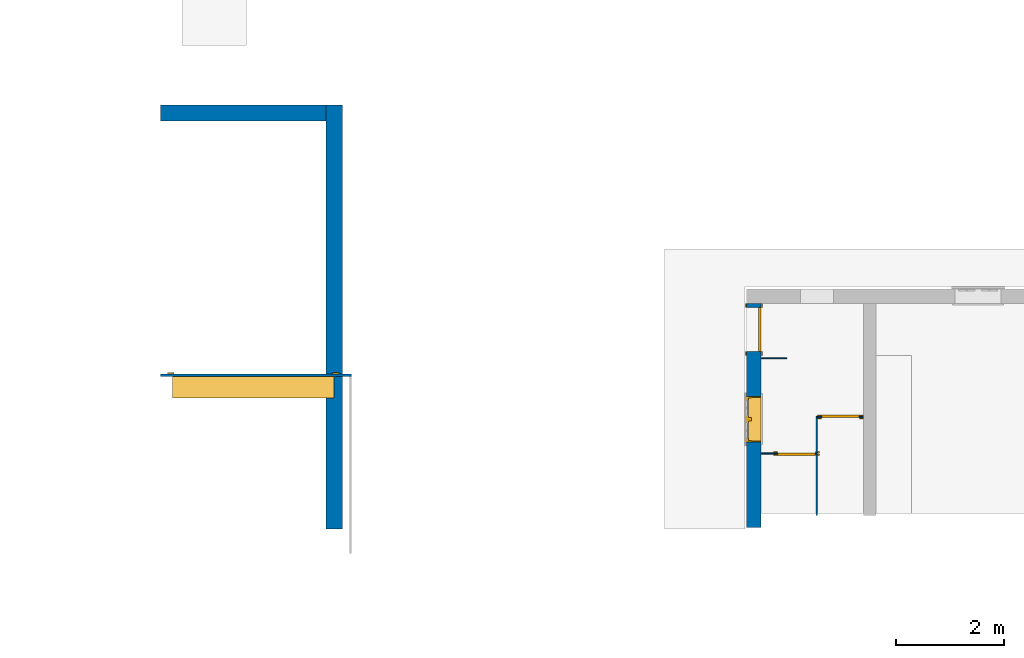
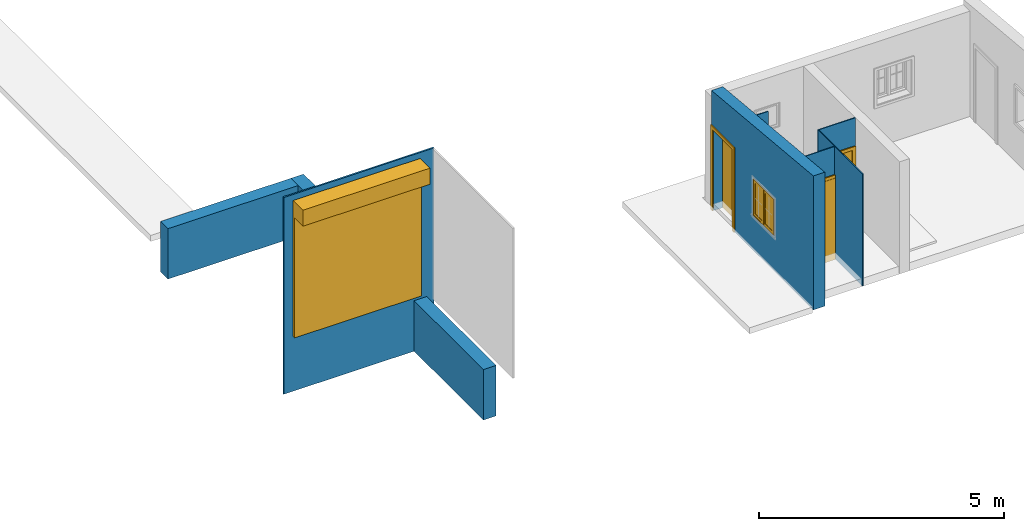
"""IFC2X3 building model written with IfcOpenShell, lengths in millimetres."""

from ifc_helpers import new_model, entity, si_unit, converted_unit, derived_unit, direction, frame, frame_2d, origin, origin_2d_with_axis, place, context, subcontext, project, spatial, polyline, rectangle, outline, extrude, clip, halfspace, faceted_brep, source, transform, mapped, material, material_list, layer, layer_set, layer_usage, type_object, type_shapes, element, fill, save


model = new_model("IFC2X3")

# Units and contexts
model_context = context("Model", 3, precision=0.01, world=origin(), true_north=direction((4.05803320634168e-15, -1.0)))
body_context = subcontext(model_context, "Body", "Model", "MODEL_VIEW")
ifc_project = project(units=[si_unit("LENGTHUNIT", "METRE", prefix="MILLI"), si_unit("AREAUNIT", "SQUARE_METRE"), si_unit("VOLUMEUNIT", "CUBIC_METRE"), converted_unit("PLANEANGLEUNIT", "DEGREE", entity("IfcRatioMeasure", 0.0174532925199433), si_unit("PLANEANGLEUNIT", "RADIAN"), dimensions=[0, 0, 0, 0, 0, 0, 0]), si_unit("MASSUNIT", "GRAM", prefix="KILO"), derived_unit("MASSDENSITYUNIT", [(si_unit("MASSUNIT", "GRAM", prefix="KILO"), 1), (si_unit("LENGTHUNIT", "METRE"), -3)]), si_unit("TIMEUNIT", "SECOND"), si_unit("FREQUENCYUNIT", "HERTZ"), si_unit("THERMODYNAMICTEMPERATUREUNIT", "DEGREE_CELSIUS"), derived_unit("THERMALTRANSMITTANCEUNIT", [(si_unit("MASSUNIT", "GRAM", prefix="KILO"), 1), (si_unit("THERMODYNAMICTEMPERATUREUNIT", "KELVIN"), -1), (si_unit("TIMEUNIT", "SECOND"), -3)]), derived_unit("VOLUMETRICFLOWRATEUNIT", [(si_unit("LENGTHUNIT", "METRE"), 3), (si_unit("TIMEUNIT", "SECOND"), -1)]), si_unit("ELECTRICCURRENTUNIT", "AMPERE"), si_unit("ELECTRICVOLTAGEUNIT", "VOLT"), si_unit("POWERUNIT", "WATT"), si_unit("FORCEUNIT", "NEWTON", prefix="KILO"), si_unit("ILLUMINANCEUNIT", "LUX"), si_unit("LUMINOUSFLUXUNIT", "LUMEN"), si_unit("LUMINOUSINTENSITYUNIT", "CANDELA"), derived_unit("USERDEFINED", [(si_unit("MASSUNIT", "GRAM", prefix="KILO"), -1), (si_unit("LENGTHUNIT", "METRE"), -2), (si_unit("TIMEUNIT", "SECOND"), 3), (si_unit("LUMINOUSFLUXUNIT", "LUMEN"), 1)]), derived_unit("LINEARVELOCITYUNIT", [(si_unit("LENGTHUNIT", "METRE"), 1), (si_unit("TIMEUNIT", "SECOND"), -1)]), si_unit("PRESSUREUNIT", "PASCAL"), derived_unit("USERDEFINED", [(si_unit("LENGTHUNIT", "METRE"), -2), (si_unit("MASSUNIT", "GRAM", prefix="KILO"), 1), (si_unit("TIMEUNIT", "SECOND"), -2)])], contexts=[model_context])

# Site, building, storey
site_placement = place(None, frame((927466.849349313, 583801.882853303, 0.0), z_axis=(0.0, 0.0, 1.0), x_axis=(-1.0, 0.0, 0.0)))
site = spatial("IfcSite", under=ifc_project, at=site_placement, Name="Surface", CompositionType="ELEMENT")
building_placement = place(site_placement, origin())
building = spatial("IfcBuilding", under=site, at=building_placement, CompositionType="ELEMENT")
storey_1_placement = place(building_placement, frame((0.0, 0.0, 42810.0)))
storey_1 = spatial("IfcBuildingStorey", under=building, at=storey_1_placement, Name="Hardstand", CompositionType="ELEMENT", Elevation=42810.0)

# Wall, openings, window, door
ifc_material_1 = material(Name="Brick, Common")
ifc_layer_1 = layer(ifc_material_1, 110.0)
ifc_material_2 = material(Name="Air")
ifc_layer_2 = layer(ifc_material_2, 50.0)
ifc_layer_3 = layer(ifc_material_1, 110.0)
ifc_layer_set_1 = layer_set([ifc_layer_1, ifc_layer_2, ifc_layer_3], Name="Basic Wall:wall Brick 270")
ifc_layer_usage_1 = layer_usage(ifc_layer_set_1, "AXIS2", "NEGATIVE", 135.0)
wall_type_1 = type_object("IfcWallType", Name="Basic Wall:wall Brick 270", PredefinedType="STANDARD", material=ifc_layer_set_1)
wall_1_placement = place(storey_1_placement, frame((-145915.545849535, 7259.01582707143, 0.0), z_axis=(0.0, 0.0, 1.0), x_axis=(0.0, 1.0, 0.0)))
wall_1 = element("IfcWallStandardCase", 1, at=wall_1_placement, inside=storey_1, type_object=wall_type_1, material=ifc_layer_usage_1, Name="Basic Wall:wall Brick 270", ObjectType="Basic Wall:wall Brick 270", context=body_context, shape_type="Clipping", body=[
    clip(extrude(rectangle(XDim=4165.00000000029, YDim=270.000000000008, at=frame_2d((2082.50000000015, -7.24753590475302e-12), x_axis=(-1.0, 0.0))), origin(), (0.0, 0.0, 1.0), 3344.98005450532), halfspace(frame((0.0, -135.0, 2954.46860363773), z_axis=(-0.0933508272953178, 0.0, 0.995633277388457), x_axis=(0.0, 1.0, 0.0)), False)),
])
opening_1_placement = place(wall_1_placement, frame((77.0, -135.0, 0.0)))
opening_1 = element("IfcOpeningElement", 2, at=opening_1_placement, cuts=wall_1, Name="M_Single-Flush:0813 x 2030mm:1", ObjectType="Opening", context=body_context, shape_type="SweptSolid", body=[
    extrude(rectangle(XDim=813.000000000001, YDim=2030.0, at=frame_2d((1015.0, 406.500000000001), x_axis=(0.0, -1.0))), frame((0.0, 0.0, 0.0), z_axis=(0.0, 1.0, 0.0), x_axis=(0.0, 0.0, 1.0)), (0.0, 0.0, 1.0), 270.0),
])
opening_2_placement = place(wall_1_placement, frame((2575.56579964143, 135.0, 900.0)))
opening_2 = element("IfcOpeningElement", 3, at=opening_2_placement, cuts=wall_1, Name="M_Window-Casement-Double:850 x 900mm:1", ObjectType="Opening", context=body_context, shape_type="SweptSolid", body=[
    extrude(rectangle(XDim=899.999999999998, YDim=850.0, at=frame_2d((450.000000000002, 425.0), x_axis=(-1.0, 0.0))), frame((0.0, 0.0, 0.0), z_axis=(0.0, -1.0, 0.0), x_axis=(0.0, 0.0, 1.0)), (0.0, 0.0, 1.0), 270.0),
])
ifc_material_3 = material(Name="Wood - Stained")
ifc_material_4 = material(Name="Glass")
ifc_material_list_1 = material_list([ifc_material_3, ifc_material_4])
ifc_material_list_2 = material_list([ifc_material_3, ifc_material_4])
window_style = type_object("IfcWindowStyle", Name="850 x 900mm", ConstructionType="NOTDEFINED", OperationType="NOTDEFINED", ParameterTakesPrecedence=False, Sizeable=False, material=ifc_material_list_2)
shared_shape_1 = source(origin(), body_context, "Body", "Brep", [
    faceted_brep([(434.524999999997, 289.049999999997, 887.300000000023), (415.474999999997, 289.049999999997, 887.300000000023), (415.474999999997, 238.250000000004, 887.300000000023), (434.524999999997, 238.249999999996, 887.300000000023), (434.524999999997, 289.049999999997, 12.6999999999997), (434.524999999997, 238.250000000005, 12.6999999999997), (415.474999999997, 238.249999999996, 12.6999999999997), (415.474999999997, 289.049999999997, 12.6999999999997), (415.474999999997, 238.249999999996, 31.7499999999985), (415.474999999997, 238.250000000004, 868.250000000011), (394.8375, 238.250000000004, 31.7499999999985), (394.8375, 238.250000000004, 868.250000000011), (394.8375, 174.75, 31.7499999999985), (394.8375, 174.75, 868.250000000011), (455.1625, 174.75, 31.7499999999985), (455.1625, 174.75, 868.250000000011), (455.1625, 238.250000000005, 31.7499999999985), (455.1625, 238.250000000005, 868.250000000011), (434.524999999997, 238.250000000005, 31.7499999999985), (434.524999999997, 238.250000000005, 868.250000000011)], [[[0, 1, 2, 3]], [[4, 5, 6, 7]], [[1, 0, 4, 7]], [[2, 1, 7, 6, 8, 9]], [[9, 8, 10, 11]], [[11, 10, 12, 13]], [[13, 12, 14, 15]], [[15, 14, 16, 17]], [[17, 16, 18, 19]], [[0, 3, 19, 18, 5, 4]], [[18, 8, 6, 5]], [[8, 18, 16, 14, 12, 10]], [[19, 9, 11, 13, 15, 17]], [[9, 19, 3, 2]]]),
    faceted_brep([(358.324999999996, 270.0, 830.150000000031), (69.8499999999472, 270.0, 830.150000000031), (69.8499999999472, 263.650000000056, 830.150000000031), (358.324999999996, 263.650000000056, 830.150000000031), (358.324999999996, 270.0, 69.8499999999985), (69.8499999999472, 270.0, 69.8499999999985), (69.8499999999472, 263.650000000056, 69.8499999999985), (358.324999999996, 263.650000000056, 69.8499999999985)], [[[0, 1, 2, 3]], [[1, 0, 4, 5]], [[2, 1, 5, 6]], [[3, 2, 6, 7]], [[0, 3, 7, 4]], [[4, 7, 6, 5]]]),
    faceted_brep([(69.8499999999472, 250.949999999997, 69.8499999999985), (69.8499999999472, 257.300000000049, 69.8499999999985), (358.324999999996, 257.300000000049, 69.8499999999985), (358.324999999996, 250.949999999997, 69.8499999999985), (358.324999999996, 250.949999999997, 830.150000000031), (69.8499999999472, 250.949999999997, 830.150000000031), (358.324999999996, 257.300000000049, 830.150000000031), (69.8499999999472, 257.300000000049, 830.150000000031)], [[[0, 1, 2, 3]], [[4, 5, 0, 3]], [[6, 4, 3, 2]], [[7, 6, 2, 1]], [[5, 7, 1, 0]], [[5, 4, 6, 7]]]),
    faceted_brep([(780.149999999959, 270.0, 830.150000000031), (491.674999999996, 270.0, 830.150000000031), (491.674999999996, 263.650000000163, 830.150000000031), (780.149999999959, 263.650000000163, 830.150000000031), (780.149999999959, 270.0, 69.8499999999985), (491.674999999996, 270.0, 69.8499999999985), (491.674999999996, 263.650000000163, 69.8499999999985), (780.149999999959, 263.650000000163, 69.8499999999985)], [[[0, 1, 2, 3]], [[1, 0, 4, 5]], [[2, 1, 5, 6]], [[3, 2, 6, 7]], [[0, 3, 7, 4]], [[4, 7, 6, 5]]]),
    faceted_brep([(491.674999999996, 250.949999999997, 69.8499999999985), (491.674999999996, 257.300000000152, 69.8499999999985), (780.149999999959, 257.300000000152, 69.8499999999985), (780.149999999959, 250.949999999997, 69.8499999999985), (780.149999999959, 250.949999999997, 830.150000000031), (491.674999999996, 250.949999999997, 830.150000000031), (780.149999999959, 257.300000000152, 830.150000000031), (491.674999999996, 257.300000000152, 830.150000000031)], [[[0, 1, 2, 3]], [[4, 5, 0, 3]], [[6, 4, 3, 2]], [[7, 6, 2, 1]], [[5, 7, 1, 0]], [[5, 4, 6, 7]]]),
    faceted_brep([(415.474999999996, 238.249999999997, 887.300000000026), (415.474999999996, 282.699999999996, 887.300000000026), (12.6999999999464, 282.699999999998, 887.300000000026), (12.6999999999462, 238.249999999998, 887.300000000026), (358.324999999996, 282.699999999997, 830.150000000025), (358.324999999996, 238.249999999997, 830.150000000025), (69.8499999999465, 238.249999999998, 830.150000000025), (69.8499999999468, 282.699999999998, 830.150000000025), (12.6999999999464, 282.699999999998, 12.7000000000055), (12.6999999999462, 238.249999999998, 12.7000000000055), (69.8499999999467, 238.249999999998, 69.8500000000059), (69.8499999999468, 282.699999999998, 69.8500000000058), (415.474999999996, 282.699999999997, 12.7000000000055), (415.474999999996, 238.249999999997, 12.7000000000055), (358.324999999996, 238.249999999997, 69.8500000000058), (358.324999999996, 282.699999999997, 69.8500000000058)], [[[0, 1, 2, 3]], [[4, 5, 6, 7]], [[3, 2, 8, 9]], [[7, 6, 10, 11]], [[9, 8, 12, 13]], [[11, 10, 14, 15]], [[7, 11, 15, 4], [1, 12, 8, 2]], [[13, 12, 1, 0]], [[3, 9, 13, 0], [5, 14, 10, 6]], [[15, 14, 5, 4]]], outer=[[True], [True], [True], [True], [True], [True], [False, True], [True], [True, False], [True]]),
    faceted_brep([(780.149999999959, 238.249999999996, 69.8500000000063), (780.149999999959, 282.699999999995, 69.8500000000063), (491.674999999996, 282.699999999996, 69.8500000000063), (491.674999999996, 238.249999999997, 69.8500000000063), (837.299999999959, 282.699999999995, 12.7000000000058), (837.299999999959, 238.249999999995, 12.7000000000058), (434.524999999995, 238.249999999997, 12.7000000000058), (434.524999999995, 282.699999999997, 12.7000000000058), (491.674999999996, 282.699999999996, 830.150000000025), (491.674999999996, 238.249999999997, 830.150000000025), (434.524999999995, 238.249999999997, 887.300000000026), (434.524999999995, 282.699999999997, 887.300000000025), (780.149999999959, 282.699999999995, 830.150000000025), (780.149999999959, 238.249999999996, 830.150000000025), (837.299999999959, 238.249999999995, 887.300000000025), (837.299999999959, 282.699999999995, 887.300000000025)], [[[0, 1, 2, 3]], [[4, 5, 6, 7]], [[3, 2, 8, 9]], [[7, 6, 10, 11]], [[9, 8, 12, 13]], [[11, 10, 14, 15]], [[13, 12, 1, 0]], [[3, 9, 13, 0], [5, 14, 10, 6]], [[15, 14, 5, 4]], [[7, 11, 15, 4], [1, 12, 8, 2]]], outer=[[True], [True], [True], [True], [True], [True], [True], [False, True], [True], [True, False]]),
    faceted_brep([(0.0, 0.0, 900.0), (0.0, 0.0, 0.0), (850.0, 0.0, 0.0), (850.0, 0.0, 900.0), (830.950000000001, 0.0, 880.949999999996), (830.950000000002, 0.0, 19.0499999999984), (19.0499999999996, 0.0, 19.0499999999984), (19.0499999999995, 0.0, 880.949999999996), (0.0, 174.75, 900.0), (850.0, 174.75, 900.0), (850.0, 174.75, 0.0), (0.0, 174.75, 0.0), (830.950000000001, 174.75, 880.949999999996), (19.0499999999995, 174.75, 880.949999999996), (19.0499999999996, 174.75, 19.0499999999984), (830.950000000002, 174.75, 19.0499999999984)], [[[0, 1, 2, 3], [4, 5, 6, 7]], [[8, 9, 10, 11], [12, 13, 14, 15]], [[1, 0, 8, 11]], [[2, 1, 11, 10]], [[3, 2, 10, 9]], [[0, 3, 9, 8]], [[5, 4, 12, 15]], [[6, 5, 15, 14]], [[7, 6, 14, 13]], [[4, 7, 13, 12]]]),
    faceted_brep([(818.250000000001, 238.249999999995, 868.249999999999), (818.250000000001, 174.749999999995, 868.249999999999), (31.7499999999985, 174.749999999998, 868.249999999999), (31.7499999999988, 238.249999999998, 868.249999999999), (837.300000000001, 289.049999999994, 887.299999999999), (837.300000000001, 238.249999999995, 887.299999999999), (12.699999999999, 238.249999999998, 887.299999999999), (12.6999999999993, 289.049999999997, 887.299999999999), (850.0, 174.749999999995, 900.0), (850.0, 289.049999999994, 900.0), (0.0, 289.049999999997, 900.0), (0.0, 174.749999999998, 900.0), (31.7499999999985, 174.749999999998, 31.7499999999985), (31.7499999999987, 238.249999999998, 31.7499999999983), (12.6999999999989, 238.249999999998, 12.6999999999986), (12.6999999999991, 289.049999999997, 12.6999999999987), (0.0, 289.049999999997, 0.0), (0.0, 174.749999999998, 0.0), (818.250000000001, 174.749999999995, 31.7499999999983), (818.250000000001, 238.249999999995, 31.7499999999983), (837.300000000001, 238.249999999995, 12.6999999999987), (837.300000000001, 289.049999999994, 12.6999999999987), (850.0, 289.049999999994, 0.0), (850.0, 174.749999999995, 0.0)], [[[0, 1, 2, 3]], [[4, 5, 6, 7]], [[8, 9, 10, 11]], [[3, 2, 12, 13]], [[7, 6, 14, 15]], [[11, 10, 16, 17]], [[13, 12, 18, 19]], [[15, 14, 20, 21]], [[17, 16, 22, 23]], [[11, 17, 23, 8], [1, 18, 12, 2]], [[19, 18, 1, 0]], [[3, 13, 19, 0], [5, 20, 14, 6]], [[21, 20, 5, 4]], [[23, 22, 9, 8]], [[7, 15, 21, 4], [9, 22, 16, 10]]], outer=[[True], [True], [True], [True], [True], [True], [True], [True], [True], [True, False], [True], [False, True], [True], [True], [False, True]]),
])
type_shapes(window_style, [shared_shape_1])
window_placement = place(opening_2_placement, frame((0.0, 0.0, 0.0), z_axis=(0.0, 0.0, 1.0), x_axis=(-1.0, 0.0, 0.0)))
window = element("IfcWindow", 4, at=window_placement, inside=storey_1, type_object=window_style, material=ifc_material_list_1, Name="M_Window-Casement-Double:850 x 900mm", ObjectType="850 x 900mm", OverallHeight=900.000000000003, OverallWidth=850.000000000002, context=body_context, shape_type="MappedRepresentation", body=[
    mapped(shared_shape_1, transform((0.0, 0.0, 0.0), scale=1.0)),
])
fill(opening_2, window)
ifc_material_5 = material(Name="Door - Frame")
ifc_material_6 = material(Name="Door - Panel")
ifc_material_list_3 = material_list([ifc_material_5, ifc_material_6])
ifc_material_list_4 = material_list([ifc_material_5, ifc_material_6])
door_style_1 = type_object("IfcDoorStyle", Name="0813 x 2030mm", ConstructionType="NOTDEFINED", OperationType="SINGLE_SWING_LEFT", ParameterTakesPrecedence=False, Sizeable=False, material=ifc_material_list_4)
shared_shape_2 = source(origin(), body_context, "Body", "SweptSolid", [
    extrude(outline(polyline([(-482.5, -1072.0), (482.5, -1072.0), (482.5, 1034.0), (406.5, 1034.0), (406.5, -996.0), (-406.5, -996.0), (-406.5, 1034.0), (-482.5, 1034.0), (-482.5, -1072.0)])), frame((406.5, 295.0, 1034.0), z_axis=(0.0, -1.0, 0.0), x_axis=(-1.0, 0.0, 0.0)), (0.0, 0.0, 1.0), 24.9999999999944),
    extrude(outline(polyline([(-1072.0, -482.499999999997), (1034.0, -482.499999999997), (1034.0, -406.500000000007), (-996.0, -406.500000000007), (-996.0, 406.500000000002), (1034.0, 406.500000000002), (1034.0, 482.500000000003), (-1072.0, 482.500000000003), (-1072.0, -482.499999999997)])), frame((406.499999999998, 0.0, 1034.0), z_axis=(0.0, -1.0, 0.0), x_axis=(0.0, 0.0, -1.0)), (0.0, 0.0, 1.0), 25.0000000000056),
    extrude(rectangle(XDim=813.0, YDim=51.0, at=frame_2d((0.0, 8.88178419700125e-15), x_axis=(1.0, 0.0))), frame((406.5, 244.499999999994, 0.0)), (0.0, 0.0, 1.0), 2030.0),
])
type_shapes(door_style_1, [shared_shape_2])
door_1_placement = place(opening_1_placement, origin())
door_1 = element("IfcDoor", 5, at=door_1_placement, inside=storey_1, type_object=door_style_1, material=ifc_material_list_3, Name="M_Single-Flush:0813 x 2030mm", ObjectType="0813 x 2030mm", OverallHeight=2030.0, OverallWidth=813.000000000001, context=body_context, shape_type="MappedRepresentation", body=[
    mapped(shared_shape_2, transform((0.0, 0.0, 0.0), scale=1.0)),
])
fill(opening_1, door_1)

# Wall, opening
ifc_material_7 = material(Name="Cladding(2)")
ifc_layer_4 = layer(ifc_material_7, 38.0)
ifc_layer_set_2 = layer_set([ifc_layer_4], Name="Basic Wall:Cladding 3")
ifc_layer_usage_2 = layer_usage(ifc_layer_set_2, "AXIS2", "POSITIVE", -19.0)
wall_type_2 = type_object("IfcWallType", Name="Basic Wall:Cladding 3", PredefinedType="NOTDEFINED")
wall_2_placement = place(storey_1_placement, frame((-134900.59177989, 8594.22253534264, 0.0), z_axis=(0.0, 0.0, 1.0), x_axis=(-1.0, 0.0, 0.0)))
wall_2 = element("IfcWallStandardCase", 6, at=wall_2_placement, inside=storey_1, type_object=wall_type_2, material=ifc_layer_usage_2, Name="Basic Wall:Cladding 3", ObjectType="Basic Wall:Cladding 3", context=body_context, shape_type="SweptSolid", body=[
    extrude(rectangle(XDim=3545.18807853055, YDim=38.0, at=frame_2d((1772.59403926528, -3.00204305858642e-13), x_axis=(-1.0, 0.0))), origin(), (0.0, 0.0, 1.0), 4909.99999999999),
])
opening_3_placement = place(wall_2_placement, frame((222.345496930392, -19.0, 1360.0)))
opening_3 = element("IfcOpeningElement", 7, at=opening_3_placement, cuts=wall_2, Name="Rollershutter:3000(w) x 3000(h):1", ObjectType="Opening", context=body_context, shape_type="SweptSolid", body=[
    extrude(rectangle(XDim=3000.0, YDim=3000.0, at=frame_2d((1500.0, 1500.0), x_axis=(1.0, 0.0))), frame((0.0, 0.0, 0.0), z_axis=(0.0, 1.0, 0.0), x_axis=(0.0, 0.0, 1.0)), (0.0, 0.0, 1.0), 38.0),
])

# Storey
storey_2_placement = place(building_placement, frame((0.0, 0.0, 44170.0)))
storey_2 = spatial("IfcBuildingStorey", under=building, at=storey_2_placement, Name="Ground FFL", CompositionType="ELEMENT", Elevation=44170.0)

# Door
ifc_material_8 = material(Name="Metal - Paint Finish - Ivory, Matte")
ifc_material_9 = material(Name="Metal - Galvanised")
ifc_material_list_5 = material_list([ifc_material_8, ifc_material_9])
ifc_material_list_6 = material_list([ifc_material_8, ifc_material_9])
door_style_2 = type_object("IfcDoorStyle", Name="3000(w) x 3000(h)", ConstructionType="NOTDEFINED", OperationType="NOTDEFINED", ParameterTakesPrecedence=False, Sizeable=False, material=ifc_material_list_6)
shared_shape_3 = source(origin(), body_context, "Body", "SweptSolid", [
    extrude(outline(polyline([(-29.9333333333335, -73.3333333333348), (0.0666666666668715, -73.3333333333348), (0.0666666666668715, 21.6666666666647), (29.8666666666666, 21.6666666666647), (29.8666666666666, 51.6666666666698), (-29.9333333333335, 51.6666666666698), (-29.9333333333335, -73.3333333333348)])), frame((-21.6666666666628, 38.0666666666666, 0.0), z_axis=(0.0, 0.0, 1.0), x_axis=(0.0, -1.0, 0.0)), (0.0, 0.0, 1.0), 3000.0),
    extrude(rectangle(XDim=3000.0, YDim=51.0, at=origin_2d_with_axis()), frame((1500.0, -25.5, 0.0), z_axis=(0.0, 0.0, 1.0), x_axis=(-1.0, 0.0, 0.0)), (0.0, 0.0, 1.0), 3000.0),
    extrude(outline(polyline([(-73.3333333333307, -29.9333333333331), (51.666666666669, -29.9333333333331), (51.666666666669, 29.8666666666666), (21.6666666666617, 29.8666666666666), (21.6666666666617, 0.0666666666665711), (-73.3333333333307, 0.0666666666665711), (-73.3333333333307, -29.9333333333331)])), frame((3021.66666666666, 38.0666666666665, 0.0), z_axis=(0.0, 0.0, 1.0), x_axis=(-1.0, 0.0, 0.0)), (0.0, 0.0, 1.0), 3000.0),
    extrude(rectangle(XDim=3000.0, YDim=400.0, at=frame_2d((3.41060513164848e-13, -4.2632564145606e-14), x_axis=(1.0, 0.0))), frame((1500.0, -200.0, 3000.0)), (0.0, 0.0, 1.0), 400.0),
])
type_shapes(door_style_2, [shared_shape_3])
door_2_placement = place(opening_3_placement, origin())
door_2 = element("IfcDoor", 8, at=door_2_placement, inside=storey_2, type_object=door_style_2, material=ifc_material_list_5, Name="Rollershutter:3000(w) x 3000(h)", ObjectType="3000(w) x 3000(h)", OverallHeight=3000.0, OverallWidth=2999.99999999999, context=body_context, shape_type="MappedRepresentation", body=[
    mapped(shared_shape_3, transform((0.0, 0.0, 0.0), scale=1.0)),
])

fill(opening_3, door_2)

# Walls
ifc_material_10 = material(Name="conc bund")
ifc_layer_5 = layer(ifc_material_10, 300.0)
ifc_layer_set_3 = layer_set([ifc_layer_5], Name="Basic Wall:300 bund wall")
ifc_layer_usage_3 = layer_usage(ifc_layer_set_3, "AXIS2", "POSITIVE", -150.0)
wall_type_3 = type_object("IfcWallType", Name="Basic Wall:300 bund wall", PredefinedType="STANDARD", material=ifc_layer_set_3)
wall_3_placement = place(storey_1_placement, frame((-138125.93727682, 11448.2777512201, 0.0), z_axis=(0.0, 0.0, 1.0), x_axis=(0.0, -1.0, 0.0)))
element("IfcWallStandardCase", 9, at=wall_3_placement, inside=storey_1, type_object=wall_type_3, material=ifc_layer_usage_3, Name="Basic Wall:300 bund wall", ObjectType="Basic Wall:300 bund wall", context=body_context, shape_type="SweptSolid", body=[
    extrude(rectangle(XDim=7875.0552158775, YDim=300.000000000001, at=frame_2d((3937.52760793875, 0.0), x_axis=(-1.0, 0.0))), origin(), (0.0, 0.0, 1.0), 1259.99999999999),
])
ifc_layer_usage_4 = layer_usage(ifc_layer_set_3, "AXIS2", "POSITIVE", -150.0)
wall_4_placement = place(storey_1_placement, frame((-137975.93727682, 3723.22253534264, 0.0)))
element("IfcWallStandardCase", 10, at=wall_4_placement, inside=storey_1, type_object=wall_type_3, material=ifc_layer_usage_4, Name="Basic Wall:300 bund wall", ObjectType="Basic Wall:300 bund wall", context=body_context, shape_type="SweptSolid", body=[
    extrude(rectangle(XDim=3075.34549693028, YDim=300.0, at=frame_2d((1537.67274846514, 7.105427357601e-14), x_axis=(-1.0, 0.0))), origin(), (0.0, 0.0, 1.0), 1259.99999999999),
])

# Wall, opening, door
ifc_material_11 = material(Name="Partition")
ifc_layer_6 = layer(ifc_material_11, 22.0)
ifc_layer_set_4 = layer_set([ifc_layer_6], Name="Basic Wall:22 Partition")
ifc_layer_usage_5 = layer_usage(ifc_layer_set_4, "AXIS2", "POSITIVE", -11.0)
wall_type_4 = type_object("IfcWallType", Name="Basic Wall:22 Partition", PredefinedType="STANDARD", material=ifc_layer_set_4)
wall_5_placement = place(storey_1_placement, frame((-147950.545849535, 9370.01582707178, 0.0)))
wall_5 = element("IfcWallStandardCase", 11, at=wall_5_placement, inside=storey_1, type_object=wall_type_4, material=ifc_layer_usage_5, Name="Basic Wall:22 Partition", ObjectType="Basic Wall:22 Partition", context=body_context, shape_type="SweptSolid", body=[
    extrude(rectangle(XDim=876.999999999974, YDim=21.9999999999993, at=frame_2d((438.499999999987, -6.21724893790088e-15), x_axis=(-1.0, 0.0))), origin(), (0.0, 0.0, 1.0), 2799.99999999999),
])
opening_4_placement = place(wall_5_placement, frame((77.0, -11.0, 0.0)))
opening_4 = element("IfcOpeningElement", 12, at=opening_4_placement, cuts=wall_5, Name="M_Single-Flush:700 x 2030mm:1", ObjectType="Opening", context=body_context, shape_type="SweptSolid", body=[
    extrude(rectangle(XDim=700.0, YDim=2030.0, at=frame_2d((1015.0, 350.000000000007), x_axis=(0.0, 1.0))), frame((0.0, 0.0, 0.0), z_axis=(0.0, 1.0, 0.0), x_axis=(0.0, 0.0, 1.0)), (0.0, 0.0, 1.0), 22.0),
])
ifc_material_list_7 = material_list([ifc_material_5, ifc_material_6])
ifc_material_list_8 = material_list([ifc_material_5, ifc_material_6])
door_style_3 = type_object("IfcDoorStyle", Name="700 x 2030mm", ConstructionType="NOTDEFINED", OperationType="SINGLE_SWING_RIGHT", ParameterTakesPrecedence=False, Sizeable=False, material=ifc_material_list_8)
shared_shape_4 = source(origin(), body_context, "Body", "SweptSolid", [
    extrude(outline(polyline([(-426.0, -1072.0), (426.0, -1072.0), (426.0, 1034.0), (350.0, 1034.0), (350.0, -996.0), (-350.0, -996.0), (-350.0, 1034.0), (-426.0, 1034.0), (-426.0, -1072.0)])), frame((350.0, 22.0, 1034.0), z_axis=(0.0, 1.0, 0.0), x_axis=(1.0, 0.0, 0.0)), (0.0, 0.0, 1.0), 24.9999999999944),
    extrude(outline(polyline([(-1072.0, -426.0), (1034.0, -426.0), (1034.0, -350.0), (-996.0, -350.0), (-996.0, 350.0), (1034.0, 350.0), (1034.0, 426.0), (-1072.0, 426.0), (-1072.0, -426.0)])), frame((350.0, -25.0, 1034.0), z_axis=(0.0, 1.0, 0.0), x_axis=(0.0, 0.0, -1.0)), (0.0, 0.0, 1.0), 25.0000000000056),
    extrude(rectangle(XDim=51.0, YDim=700.0, at=origin_2d_with_axis()), frame((350.0, -3.50000000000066, 0.0), z_axis=(0.0, 0.0, 1.0), x_axis=(0.0, 1.0, 0.0)), (0.0, 0.0, 1.0), 2030.0),
])
type_shapes(door_style_3, [shared_shape_4])
door_3_placement = place(opening_4_placement, origin())
door_3 = element("IfcDoor", 13, at=door_3_placement, inside=storey_1, type_object=door_style_3, material=ifc_material_list_7, Name="M_Single-Flush:700 x 2030mm", ObjectType="700 x 2030mm", OverallHeight=2030.0, OverallWidth=700.000000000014, context=body_context, shape_type="MappedRepresentation", body=[
    mapped(shared_shape_4, transform((0.0, 0.0, 0.0), scale=1.0)),
])
fill(opening_4, door_3)

# Wall
ifc_layer_usage_6 = layer_usage(ifc_layer_set_4, "AXIS2", "POSITIVE", -11.0)
wall_6_placement = place(storey_1_placement, frame((-147084.545849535, 11194.0158270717, 0.0), z_axis=(0.0, 0.0, 1.0), x_axis=(0.0, -1.0, 0.0)))
element("IfcWallStandardCase", 14, at=wall_6_placement, inside=storey_1, type_object=wall_type_4, material=ifc_layer_usage_6, Name="Basic Wall:22 Partition", ObjectType="Basic Wall:22 Partition", context=body_context, shape_type="SweptSolid", body=[
    extrude(rectangle(XDim=1812.99999999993, YDim=21.999999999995, at=frame_2d((906.499999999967, 4.41957581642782e-12), x_axis=(-1.0, 0.0))), origin(), (0.0, 0.0, 1.0), 2799.99999999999),
])

# Wall, opening, door
ifc_layer_usage_7 = layer_usage(ifc_layer_set_4, "AXIS2", "POSITIVE", -11.0)
wall_7_placement = place(storey_1_placement, frame((-147073.545849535, 10048.0158270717, 0.0)))
wall_7 = element("IfcWallStandardCase", 15, at=wall_7_placement, inside=storey_1, type_object=wall_type_4, material=ifc_layer_usage_7, Name="Basic Wall:22 Partition", ObjectType="Basic Wall:22 Partition", context=body_context, shape_type="SweptSolid", body=[
    extrude(rectangle(XDim=1023.00000000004, YDim=21.9999999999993, at=frame_2d((511.500000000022, -4.57411886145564e-13), x_axis=(-1.0, 0.0))), origin(), (0.0, 0.0, 1.0), 2799.99999999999),
])
opening_5_placement = place(wall_7_placement, frame((714.003222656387, 11.0, 0.0)))
opening_5 = element("IfcOpeningElement", 16, at=opening_5_placement, cuts=wall_7, Name="M_Single-Flush:700 x 2030mm:1", ObjectType="Opening", context=body_context, shape_type="SweptSolid", body=[
    extrude(rectangle(XDim=700.0, YDim=2030.0, at=frame_2d((1015.0, 350.000000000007), x_axis=(0.0, 1.0))), frame((0.0, 0.0, 0.0), z_axis=(0.0, -1.0, 0.0), x_axis=(0.0, 0.0, 1.0)), (0.0, 0.0, 1.0), 22.0),
])
ifc_material_list_9 = material_list([ifc_material_5, ifc_material_6])
door_4_placement = place(opening_5_placement, frame((0.0, 0.0, 0.0), z_axis=(0.0, 0.0, 1.0), x_axis=(-1.0, 0.0, 0.0)))
door_4 = element("IfcDoor", 17, at=door_4_placement, inside=storey_1, type_object=door_style_3, material=ifc_material_list_9, Name="M_Single-Flush:700 x 2030mm", ObjectType="700 x 2030mm", OverallHeight=2030.0, OverallWidth=700.000000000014, context=body_context, shape_type="MappedRepresentation", body=[
    mapped(shared_shape_4, transform((0.0, 0.0, 0.0), scale=1.0)),
])
fill(opening_5, door_4)

# Wall
ifc_layer_usage_8 = layer_usage(ifc_layer_set_4, "AXIS2", "POSITIVE", -11.0)
wall_8_placement = place(storey_1_placement, frame((-146524.54155266, 8280.70947892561, 0.0)))
element("IfcWallStandardCase", 18, at=wall_8_placement, inside=storey_1, type_object=wall_type_4, material=ifc_layer_usage_8, Name="Basic Wall:22 Partition", ObjectType="Basic Wall:22 Partition", context=body_context, shape_type="SweptSolid", body=[
    extrude(rectangle(XDim=473.995703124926, YDim=21.9999999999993, at=frame_2d((236.997851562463, 2.90434343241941e-13), x_axis=(-1.0, 0.0))), origin(), (0.0, 0.0, 1.0), 2799.99999999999),
])

save(model, "model.ifc")
